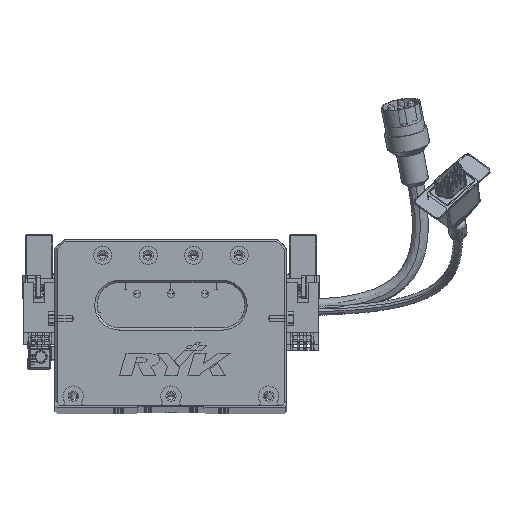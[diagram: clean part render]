
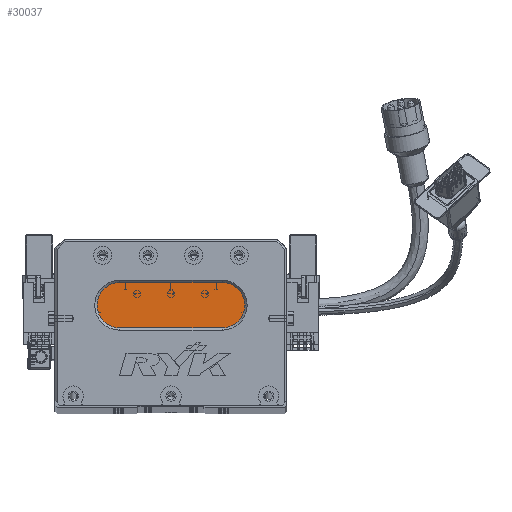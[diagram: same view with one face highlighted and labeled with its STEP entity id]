
A CAD part, top view. The second image highlights one B-rep face of the part: STEP entity #30037.
In plain terms, the highlighted planar face has unit normal (0, 0, 1) as drawn and (0, 0, -1) by its records, which use the part's own axes.
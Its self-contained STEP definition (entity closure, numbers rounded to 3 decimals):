
#2156 = DIRECTION ( 'NONE',  ( 0., 0., -1. ) ) ;
#2414 = VERTEX_POINT ( 'NONE', #35801 ) ;
#2990 = AXIS2_PLACEMENT_3D ( 'NONE', #59884, #2156, #47707 ) ;
#3933 = DIRECTION ( 'NONE',  ( -1., 0., 0. ) ) ;
#4084 = DIRECTION ( 'NONE',  ( -1., 0., 0. ) ) ;
#4605 = CIRCLE ( 'NONE', #7518, 10. ) ;
#7518 = AXIS2_PLACEMENT_3D ( 'NONE', #21275, #43564, #20286 ) ;
#13176 = EDGE_CURVE ( 'NONE', #59790, #19577, #73330, .T. ) ;
#14176 = VECTOR ( 'NONE', #22060, 1000. ) ;
#16092 = CIRCLE ( 'NONE', #2990, 10. ) ;
#17678 = ORIENTED_EDGE ( 'NONE', *, *, #32490, .T. ) ;
#18243 = CARTESIAN_POINT ( 'NONE',  ( 18.5, 44., 13. ) ) ;
#19577 = VERTEX_POINT ( 'NONE', #25409 ) ;
#20168 = EDGE_CURVE ( 'NONE', #2414, #36664, #54985, .T. ) ;
#20286 = DIRECTION ( 'NONE',  ( -1., 0., 0. ) ) ;
#20650 = EDGE_LOOP ( 'NONE', ( #17678, #62318, #22793, #61472, #30524 ) ) ;
#20711 = VECTOR ( 'NONE', #55152, 1000. ) ;
#21275 = CARTESIAN_POINT ( 'NONE',  ( 28.5, 44., 13. ) ) ;
#21757 = DIRECTION ( 'NONE',  ( 0., 0., -1. ) ) ;
#22060 = DIRECTION ( 'NONE',  ( -1., 0., 0. ) ) ;
#22793 = ORIENTED_EDGE ( 'NONE', *, *, #55718, .T. ) ;
#25409 = CARTESIAN_POINT ( 'NONE',  ( 73.5, 54., 13. ) ) ;
#26031 = CARTESIAN_POINT ( 'NONE',  ( 28.5, 34., 13. ) ) ;
#30037 = ADVANCED_FACE ( 'NONE', ( #43224 ), #55855, .T. ) ;
#30524 = ORIENTED_EDGE ( 'NONE', *, *, #13176, .T. ) ;
#32490 = EDGE_CURVE ( 'NONE', #19577, #2414, #53856, .T. ) ;
#32999 = DIRECTION ( 'NONE',  ( 0., 0., -1. ) ) ;
#35801 = CARTESIAN_POINT ( 'NONE',  ( 73.5, 34., 13. ) ) ;
#36664 = VERTEX_POINT ( 'NONE', #26031 ) ;
#37385 = CARTESIAN_POINT ( 'NONE',  ( 73.5, 54., 13. ) ) ;
#38719 = CARTESIAN_POINT ( 'NONE',  ( 73.5, 44., 13. ) ) ;
#40923 = AXIS2_PLACEMENT_3D ( 'NONE', #67481, #32999, #3933 ) ;
#43224 = FACE_OUTER_BOUND ( 'NONE', #20650, .T. ) ;
#43564 = DIRECTION ( 'NONE',  ( 0., 0., -1. ) ) ;
#44722 = CARTESIAN_POINT ( 'NONE',  ( 28.5, 54., 13. ) ) ;
#45295 = VERTEX_POINT ( 'NONE', #18243 ) ;
#46932 = AXIS2_PLACEMENT_3D ( 'NONE', #38719, #21757, #4084 ) ;
#47707 = DIRECTION ( 'NONE',  ( -1., 0., 0. ) ) ;
#53856 = CIRCLE ( 'NONE', #46932, 10. ) ;
#54985 = LINE ( 'NONE', #56552, #14176 ) ;
#55152 = DIRECTION ( 'NONE',  ( 1., 0., 0. ) ) ;
#55718 = EDGE_CURVE ( 'NONE', #36664, #45295, #16092, .T. ) ;
#55855 = PLANE ( 'NONE',  #40923 ) ;
#56552 = CARTESIAN_POINT ( 'NONE',  ( 73.5, 34., 13. ) ) ;
#59131 = EDGE_CURVE ( 'NONE', #45295, #59790, #4605, .T. ) ;
#59790 = VERTEX_POINT ( 'NONE', #44722 ) ;
#59884 = CARTESIAN_POINT ( 'NONE',  ( 28.5, 44., 13. ) ) ;
#61472 = ORIENTED_EDGE ( 'NONE', *, *, #59131, .T. ) ;
#62318 = ORIENTED_EDGE ( 'NONE', *, *, #20168, .T. ) ;
#67481 = CARTESIAN_POINT ( 'NONE',  ( 73.5, 44., 13. ) ) ;
#73330 = LINE ( 'NONE', #37385, #20711 ) ;
